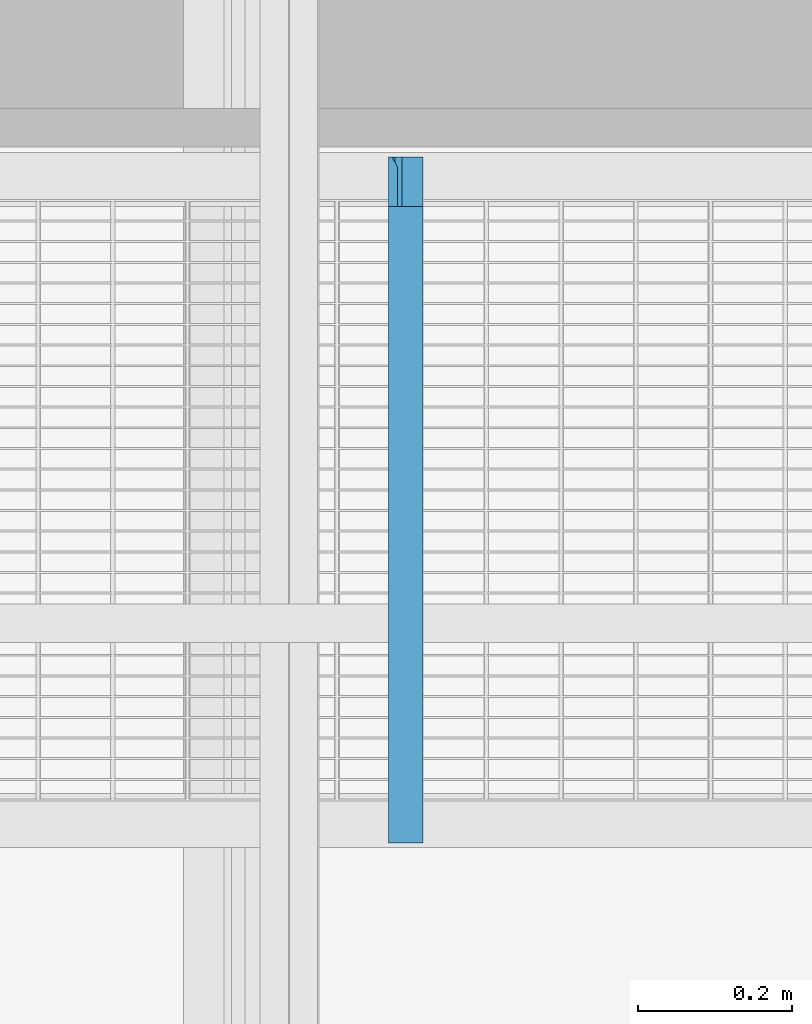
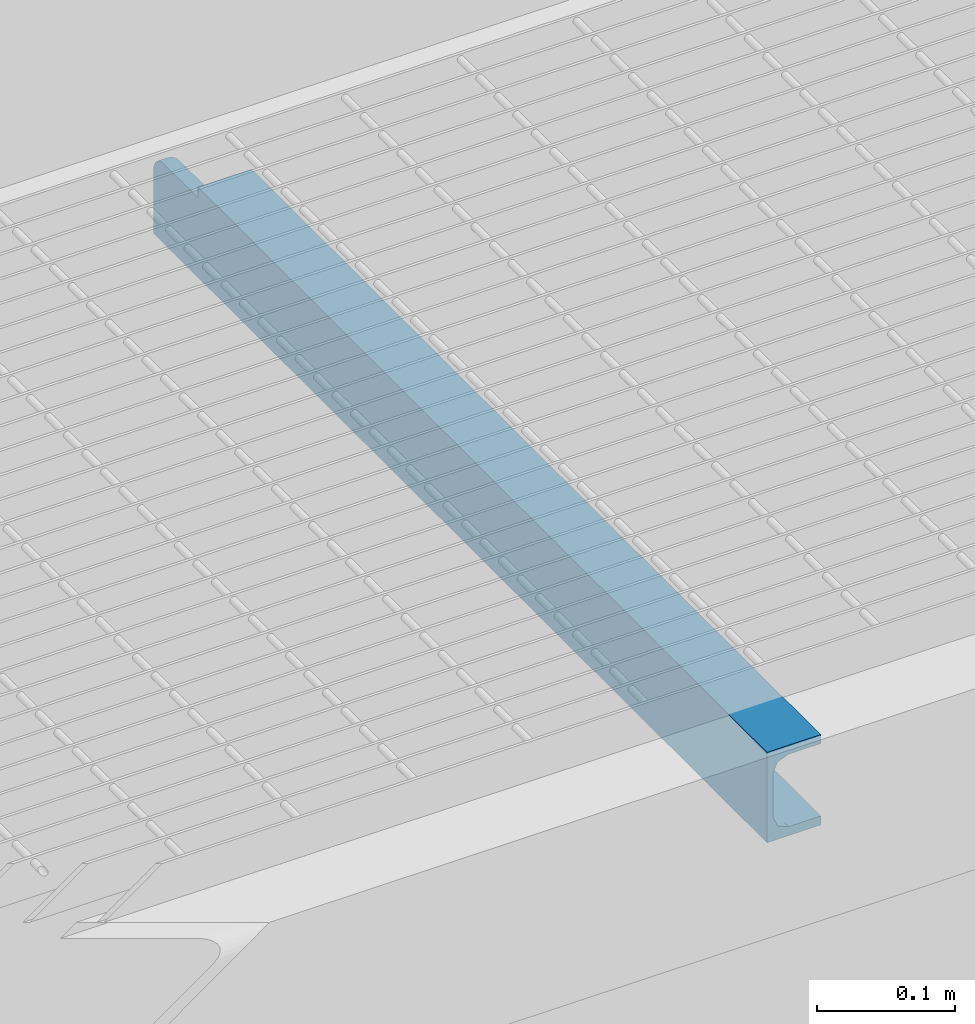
# One storey, part 48 of 75: 1 beam.
"""IFC2X3 building model written with IfcOpenShell, lengths in metres."""

from ifc_helpers import new_model, entity, si_unit, converted_unit, derived_unit, direction, frame, origin, place, context, subcontext, project, spatial, faceted_brep, material, type_object, element, save


model = new_model("IFC2X3")

# Units and contexts
model_context = context("Model", 3, precision=1e-05, world=origin(), true_north=direction((6.12303176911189e-17, 1.0)))
body_context = subcontext(model_context, "Body", "Model", "MODEL_VIEW")
ifc_project = project(units=[si_unit("LENGTHUNIT", "METRE"), si_unit("AREAUNIT", "SQUARE_METRE"), si_unit("VOLUMEUNIT", "CUBIC_METRE"), converted_unit("PLANEANGLEUNIT", "DEGREE", entity("IfcRatioMeasure", 0.0174532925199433), si_unit("PLANEANGLEUNIT", "RADIAN"), dimensions=[0, 0, 0, 0, 0, 0, 0]), si_unit("MASSUNIT", "GRAM", prefix="KILO"), derived_unit("MASSDENSITYUNIT", [(si_unit("MASSUNIT", "GRAM", prefix="KILO"), 1), (si_unit("LENGTHUNIT", "METRE"), -3)]), derived_unit("MOMENTOFINERTIAUNIT", [(si_unit("LENGTHUNIT", "METRE"), 4)]), si_unit("TIMEUNIT", "SECOND"), si_unit("FREQUENCYUNIT", "HERTZ"), si_unit("THERMODYNAMICTEMPERATUREUNIT", "DEGREE_CELSIUS"), derived_unit("THERMALTRANSMITTANCEUNIT", [(si_unit("MASSUNIT", "GRAM", prefix="KILO"), 1), (si_unit("THERMODYNAMICTEMPERATUREUNIT", "KELVIN"), -1), (si_unit("TIMEUNIT", "SECOND"), -3)]), derived_unit("VOLUMETRICFLOWRATEUNIT", [(si_unit("LENGTHUNIT", "METRE"), 3), (si_unit("TIMEUNIT", "SECOND"), -1)]), si_unit("ELECTRICCURRENTUNIT", "AMPERE"), si_unit("ELECTRICVOLTAGEUNIT", "VOLT"), si_unit("POWERUNIT", "WATT"), si_unit("FORCEUNIT", "NEWTON", prefix="KILO"), si_unit("ILLUMINANCEUNIT", "LUX"), si_unit("LUMINOUSFLUXUNIT", "LUMEN"), si_unit("LUMINOUSINTENSITYUNIT", "CANDELA"), derived_unit("USERDEFINED", [(si_unit("MASSUNIT", "GRAM", prefix="KILO"), -1), (si_unit("LENGTHUNIT", "METRE"), -2), (si_unit("TIMEUNIT", "SECOND"), 3), (si_unit("LUMINOUSFLUXUNIT", "LUMEN"), 1)]), derived_unit("LINEARVELOCITYUNIT", [(si_unit("LENGTHUNIT", "METRE"), 1), (si_unit("TIMEUNIT", "SECOND"), -1)]), si_unit("PRESSUREUNIT", "PASCAL"), derived_unit("USERDEFINED", [(si_unit("LENGTHUNIT", "METRE"), -2), (si_unit("MASSUNIT", "GRAM", prefix="KILO"), 1), (si_unit("TIMEUNIT", "SECOND"), -2)]), derived_unit("LINEARFORCEUNIT", [(si_unit("MASSUNIT", "GRAM", prefix="KILO"), 1), (si_unit("LENGTHUNIT", "METRE"), 1), (si_unit("TIMEUNIT", "SECOND"), -2), (si_unit("LENGTHUNIT", "METRE"), -1)]), derived_unit("PLANARFORCEUNIT", [(si_unit("MASSUNIT", "GRAM", prefix="KILO"), 1), (si_unit("LENGTHUNIT", "METRE"), 1), (si_unit("TIMEUNIT", "SECOND"), -2), (si_unit("LENGTHUNIT", "METRE"), -2)])], contexts=[model_context])

# Site, building, storey
site_placement = place(None, origin())
site = spatial("IfcSite", under=ifc_project, at=site_placement, Name="Superficie", CompositionType="ELEMENT")
building_placement = place(site_placement, origin())
building = spatial("IfcBuilding", under=site, at=building_placement, Name="Telegestiones", CompositionType="ELEMENT")
storey_placement = place(building_placement, origin())
storey = spatial("IfcBuildingStorey", under=building, at=storey_placement, Name="Nivel 0_NPT", CompositionType="ELEMENT", Elevation=0.0)

# Beam
ifc_material = material(Name="Metal - Acero - 345 MPa")
beam_type = type_object("IfcBeamType", Name="U-Canales de ala paralela:UAP80", PredefinedType="NOTDEFINED")
beam_placement = place(storey_placement, frame((8.52678977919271, 12.7914072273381, 17.78), z_axis=(0.0, 0.0, 1.0), x_axis=(0.0, -1.0, 0.0)))
element("IfcBeam", 1, at=beam_placement, inside=storey, type_object=beam_type, material=ifc_material, Name="U-Canales de ala paralela:UAP80", ObjectType="U-Canales de ala paralela:UAP80", context=body_context, shape_type="Brep", body=[
    faceted_brep([(0.0, 0.0450000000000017, 0.0), (0.0, 0.0450000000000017, 0.00799999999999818), (0.0, 0.0180000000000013, 0.00799999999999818), (0.0, 0.0140667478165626, 0.00962920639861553), (0.0, 0.0114371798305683, 0.0107184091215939), (0.0, 0.00880761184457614, 0.0118076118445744), (0.0, 0.00785570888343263, 0.014105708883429), (0.0, 0.00690380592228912, 0.0164038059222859), (0.0, 0.00595190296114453, 0.0187019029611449), (0.0, 0.00500000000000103, 0.0209999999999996), (0.0, 0.00500000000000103, 0.0589999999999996), (0.0, 0.00662920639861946, 0.0629332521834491), (0.0, 0.00771840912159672, 0.0655628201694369), (0.0, 0.00880761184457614, 0.0681923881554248), (0.0, 0.011105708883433, 0.0691442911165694), (0.0, 0.0134038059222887, 0.0700961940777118), (0.0, 0.0157019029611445, 0.0710480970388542), (0.0, 0.0180000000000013, 0.0719999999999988), (0.0, 0.0450000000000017, 0.0719999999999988), (0.0, 0.0450000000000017, 0.0799999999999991), (0.0, 0.0, 0.0799999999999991), (0.0, 0.0, 0.0), (-0.889000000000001, 0.0180000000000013, 0.00799999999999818), (-0.889000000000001, 0.0450000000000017, 0.00799999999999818), (-0.889000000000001, 0.0450000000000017, 0.0), (-0.889000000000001, 0.0, 0.0), (-0.889000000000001, 0.0, 0.0579413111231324), (-0.889000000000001, 0.00500000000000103, 0.0579413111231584), (-0.889000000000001, 0.00500000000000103, 0.0209999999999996), (-0.888999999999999, 0.00581460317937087, 0.0190333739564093), (-0.888999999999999, 0.00690380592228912, 0.0164038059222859), (-0.888999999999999, 0.00785570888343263, 0.0141057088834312), (-0.889000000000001, 0.00880761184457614, 0.0118076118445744), (-0.888999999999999, 0.011105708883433, 0.0108557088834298), (-0.888999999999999, 0.0134038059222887, 0.00990380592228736), (-0.888999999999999, 0.0160333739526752, 0.00881460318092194), (-0.824700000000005, 0.0, 0.0799999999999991), (-0.824700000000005, 0.0450000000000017, 0.0799999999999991), (-0.824700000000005, 0.0450000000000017, 0.0719999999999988), (-0.062947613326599, 0.0180000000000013, 0.0719999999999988), (-0.160559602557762, 0.0180000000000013, 0.0719999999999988), (-0.240839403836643, 0.0180000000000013, 0.0719999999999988), (-0.321119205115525, 0.0180000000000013, 0.0719999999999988), (-0.447014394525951, 0.0180000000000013, 0.0719999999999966), (-0.572909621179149, 0.0180000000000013, 0.0719999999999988), (-0.698804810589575, 0.0180000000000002, 0.0719999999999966), (-0.761752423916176, 0.0180000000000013, 0.0719999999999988), (-0.824700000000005, 0.0180000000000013, 0.0719999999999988), (-0.215514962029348, 0.011174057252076, 0.0700637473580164), (-0.330303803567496, 0.011807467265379, 0.0704303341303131), (-0.25452861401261, 0.0146877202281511, 0.0715709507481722), (-0.699943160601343, 0.00523485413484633, 0.0614598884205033), (-0.810563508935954, 0.00520855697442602, 0.0613192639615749), (-0.768024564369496, 0.00586898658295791, 0.0636731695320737), (-0.748090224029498, 0.00706707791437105, 0.0660335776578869), (-0.765256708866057, 0.00873473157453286, 0.0681189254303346), (-0.669156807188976, 0.00711297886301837, 0.0661044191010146), (-0.562144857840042, 0.0118082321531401, 0.0704307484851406), (-0.585927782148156, 0.0143384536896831, 0.0714736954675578), (-0.504609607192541, 0.0148068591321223, 0.0716017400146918), (-0.288903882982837, 0.00656282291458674, 0.0651798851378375), (-0.246792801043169, 0.00529946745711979, 0.0617742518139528), (-0.337054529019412, 0.00538486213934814, 0.0621397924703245), (-0.693636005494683, 0.00597327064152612, 0.0639353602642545), (-0.583477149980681, 0.00691464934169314, 0.0657908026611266), (-0.572639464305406, 0.00566390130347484, 0.0631013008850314), (-0.821714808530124, 0.0072000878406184, 0.0662361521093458), (-0.883373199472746, 0.00805140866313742, 0.0673681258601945), (-0.880694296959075, 0.00971902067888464, 0.0690212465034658), (-0.400777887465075, 0.0148068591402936, 0.0716017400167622), (-0.447014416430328, 0.0118093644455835, 0.0704313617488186), (-0.38872367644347, 0.00849580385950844, 0.0678696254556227), (-0.887564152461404, 0.00542889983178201, 0.0623117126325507), (-0.885697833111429, 0.00653775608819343, 0.0651332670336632), (-0.824700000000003, 0.0119378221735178, 0.0705000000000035), (-0.824700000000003, 0.0148775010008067, 0.0716194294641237), (-0.751859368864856, 0.0133736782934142, 0.0711489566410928), (-0.730278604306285, 0.0157137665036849, 0.0717973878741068), (-0.654792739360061, 0.0158751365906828, 0.0718251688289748), (-0.751922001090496, 0.0108748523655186, 0.0698734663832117), (-0.877647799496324, 0.0112305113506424, 0.0700983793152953), (-0.654843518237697, 0.00983894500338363, 0.0691191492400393), (-0.874200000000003, 0.0119378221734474, 0.0704999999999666), (-0.327184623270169, 0.0154006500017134, 0.0717374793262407), (-0.666010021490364, 0.0133736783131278, 0.0711489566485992), (-0.762890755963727, 0.00500000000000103, 0.0589999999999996), (-0.888785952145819, 0.00500000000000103, 0.0589999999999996), (-0.191502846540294, 0.00857794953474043, 0.0679568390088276), (-0.28840350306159, 0.00914124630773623, 0.0685143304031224), (-0.0734044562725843, 0.00605820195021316, 0.0641374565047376), (-0.125674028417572, 0.00699071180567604, 0.0659134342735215), (-0.136789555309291, 0.0140008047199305, 0.07136957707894), (-0.099192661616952, 0.0105255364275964, 0.0696363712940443), (-0.0807461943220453, 0.00843895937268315, 0.0678083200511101), (-0.636995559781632, 0.00500000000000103, 0.0589999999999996), (-0.427915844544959, 0.00590377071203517, 0.0637624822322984), (-0.422765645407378, 0.00519717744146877, 0.0612556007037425), (-0.494430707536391, 0.00536215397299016, 0.0620471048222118), (-0.441230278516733, 0.00717923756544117, 0.0662049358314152), (-0.367632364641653, 0.00666169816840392, 0.0653594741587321), (-0.506131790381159, 0.00634894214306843, 0.0647665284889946), (-0.522473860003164, 0.00816455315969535, 0.0675008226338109), (-0.598269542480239, 0.00850477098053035, 0.0678792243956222), (-0.54906765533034, 0.00980018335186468, 0.0690877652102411), (-0.469930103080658, 0.00963299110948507, 0.0689495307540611), (-0.288903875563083, 0.00500000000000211, 0.0589999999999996), (-0.0636199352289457, 0.0142262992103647, 0.0714402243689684), (-0.0742289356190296, 0.00525435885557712, 0.0615590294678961), (-0.125895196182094, 0.00500000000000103, 0.0589999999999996), (-0.159248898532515, 0.0055079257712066, 0.062598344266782), (-0.192602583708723, 0.00500000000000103, 0.0589999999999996), (-0.51110036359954, 0.00500000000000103, 0.0589999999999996), (-0.208170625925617, 0.00687495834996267, 0.0657255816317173), (-0.385205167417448, 0.00500000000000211, 0.0589999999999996), (-0.125895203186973, 0.00500000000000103, 0.0209999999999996), (-0.251790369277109, 0.00499999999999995, 0.0209999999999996), (-0.348145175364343, 0.00500000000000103, 0.0209999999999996), (-0.444499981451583, 0.00500000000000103, 0.0209999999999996), (-0.555624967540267, 0.00500000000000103, 0.0209999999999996), (-0.666749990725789, 0.00499999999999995, 0.0209999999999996), (-0.763104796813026, 0.00500000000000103, 0.0209999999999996), (-0.888902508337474, 0.00500000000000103, 0.0584725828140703), (-0.0778917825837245, 0.00972190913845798, 0.0109763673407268), (-0.434402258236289, 0.0055621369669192, 0.0172185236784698), (-0.371699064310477, 0.00522987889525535, 0.0185660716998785), (-0.637985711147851, 0.00535319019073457, 0.0179903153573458), (-0.631037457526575, 0.00637757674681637, 0.0151759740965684), (-0.714927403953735, 0.00574745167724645, 0.0166554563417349), (-0.447616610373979, 0.0123547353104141, 0.00928970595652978), (-0.318793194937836, 0.0113965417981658, 0.00980203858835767), (-0.337241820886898, 0.0147439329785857, 0.00841437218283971), (-0.522908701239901, 0.0144490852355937, 0.00849436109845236), (-0.511314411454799, 0.0180000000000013, 0.00799999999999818), (-0.600273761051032, 0.0154448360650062, 0.00825358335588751), (-0.402237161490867, 0.00939162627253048, 0.011258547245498), (-0.671410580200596, 0.0104857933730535, 0.0103916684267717), (-0.571624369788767, 0.0105107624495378, 0.0103740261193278), (-0.606787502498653, 0.0127204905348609, 0.00912032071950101), (-0.555625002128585, 0.00560622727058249, 0.0170764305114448), (-0.298942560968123, 0.00846054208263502, 0.0121683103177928), (-0.725360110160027, 0.0139509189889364, 0.00864666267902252), (-0.763104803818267, 0.0180000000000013, 0.00800000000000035), (-0.812024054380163, 0.0144028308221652, 0.00850758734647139), (-0.205498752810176, 0.00538630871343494, 0.0178544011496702), (-0.299967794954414, 0.00537533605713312, 0.017898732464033), (-0.348145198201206, 0.00647967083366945, 0.0149765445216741), (-0.148457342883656, 0.011086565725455, 0.00999071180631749), (-0.0742286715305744, 0.0123642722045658, 0.00928511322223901), (-0.151843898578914, 0.00630537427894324, 0.0153223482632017), (-0.0865002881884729, 0.00767465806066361, 0.0131014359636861), (-0.181672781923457, 0.00833343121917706, 0.0123076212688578), (-0.234464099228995, 0.0108404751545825, 0.0101491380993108), (-0.117147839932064, 0.00535692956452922, 0.0179746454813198), (-0.0766355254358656, 0.00607386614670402, 0.0158262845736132), (-0.249795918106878, 0.0134664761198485, 0.00881611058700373), (-0.074735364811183, 0.0152252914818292, 0.00829956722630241), (-0.159302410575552, 0.0144821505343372, 0.00848501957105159), (-0.125895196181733, 0.0180000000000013, 0.00800000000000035), (-0.192709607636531, 0.0180000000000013, 0.00799999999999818), (-0.2890644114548, 0.0180000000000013, 0.00799999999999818), (-0.385419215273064, 0.0180000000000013, 0.00800000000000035), (-0.273053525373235, 0.0156603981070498, 0.00821226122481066), (-0.42641705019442, 0.0152285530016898, 0.00829885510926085), (-0.511314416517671, 0.00904802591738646, 0.0115733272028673), (-0.542848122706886, 0.00701878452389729, 0.0140420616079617), (-0.60548723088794, 0.00857249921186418, 0.0120488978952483), (-0.784171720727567, 0.00998354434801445, 0.0107659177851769), (-0.699238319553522, 0.00807841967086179, 0.0125998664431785), (-0.637209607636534, 0.0180000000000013, 0.00799999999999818), (-0.801250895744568, 0.00747715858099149, 0.0133665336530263), (-0.805580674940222, 0.0055075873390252, 0.0174028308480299), (-0.445744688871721, 0.00719760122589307, 0.0137675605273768), (-0.249994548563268, 0.0063912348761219, 0.0151487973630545), (-0.367533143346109, 0.00783049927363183, 0.0129017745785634), (-0.696979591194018, 0.00670885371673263, 0.0145571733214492), (-0.8203278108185, 0.0119518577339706, 0.00949261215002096), (-0.874200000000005, 0.0, 0.0705000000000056), (-0.87768611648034, 0.0, 0.0700892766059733), (-0.880981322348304, 0.0, 0.0688795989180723), (-0.883905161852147, 0.0, 0.0669372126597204), (-0.886297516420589, 0.0, 0.0643684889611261), (-0.88802737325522, 0.0, 0.0613140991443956), (-0.824700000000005, 0.0, 0.0705000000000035)], [[[0, 1, 2, 3, 4, 5, 6, 7, 8, 9, 10, 11, 12, 13, 14, 15, 16, 17, 18, 19, 20, 21]], [[22, 23, 24, 25, 26, 27, 28, 29, 30, 31, 32, 33, 34, 35]], [[36, 20, 19, 37]], [[37, 19, 18, 38]], [[23, 1, 0, 24]], [[38, 18, 17, 39, 40, 41, 42, 43, 44, 45, 46, 47]], [[48, 49, 50]], [[51, 52, 53]], [[54, 55, 56]], [[57, 58, 59]], [[60, 61, 62]], [[63, 64, 65]], [[66, 54, 53]], [[67, 68, 55]], [[59, 69, 70]], [[71, 70, 49]], [[72, 73, 53]], [[73, 67, 66]], [[74, 75, 76]], [[77, 45, 78]], [[76, 79, 74]], [[80, 74, 68]], [[81, 56, 55]], [[82, 74, 80]], [[49, 83, 50]], [[76, 84, 79]], [[55, 68, 74]], [[52, 85, 86]], [[53, 52, 72]], [[45, 77, 46]], [[87, 88, 48]], [[89, 90, 12]], [[47, 46, 75]], [[48, 91, 92]], [[56, 64, 63]], [[93, 92, 13]], [[88, 71, 49]], [[94, 51, 65]], [[94, 85, 51]], [[51, 53, 63]], [[95, 96, 97]], [[98, 71, 99]], [[98, 100, 101]], [[84, 57, 81]], [[64, 56, 102]], [[103, 57, 104]], [[103, 102, 81]], [[59, 44, 43, 42, 69]], [[79, 55, 74]], [[59, 70, 57]], [[76, 75, 77]], [[58, 78, 44]], [[79, 81, 55]], [[81, 79, 84]], [[70, 69, 49]], [[57, 70, 104]], [[91, 48, 50]], [[101, 100, 64]], [[48, 88, 49]], [[95, 97, 100]], [[105, 62, 61]], [[106, 15, 92]], [[41, 40, 50]], [[83, 41, 50]], [[91, 39, 106]], [[40, 91, 50]], [[91, 40, 39]], [[10, 107, 11]], [[15, 14, 13, 92]], [[108, 109, 107]], [[48, 92, 87]], [[108, 110, 109]], [[111, 94, 65]], [[77, 78, 84]], [[46, 77, 75]], [[76, 77, 84]], [[58, 57, 84]], [[78, 45, 44]], [[107, 109, 89]], [[90, 109, 112]], [[96, 95, 62]], [[105, 113, 62]], [[110, 61, 109]], [[60, 62, 99]], [[71, 88, 99]], [[90, 112, 87]], [[60, 88, 112]], [[93, 90, 87]], [[105, 61, 110]], [[112, 109, 61]], [[87, 112, 88]], [[61, 60, 112]], [[108, 107, 10]], [[11, 107, 89]], [[12, 93, 13]], [[90, 89, 109]], [[12, 11, 89]], [[66, 67, 55]], [[53, 54, 63]], [[73, 66, 53]], [[54, 66, 55]], [[72, 52, 86]], [[85, 52, 51]], [[51, 63, 65]], [[56, 63, 54]], [[65, 64, 100]], [[101, 64, 102]], [[65, 100, 97]], [[98, 95, 100]], [[97, 111, 65]], [[113, 111, 96]], [[95, 98, 99]], [[104, 71, 98]], [[95, 99, 62]], [[88, 60, 99]], [[101, 102, 103]], [[81, 102, 56]], [[104, 101, 103]], [[57, 103, 81]], [[101, 104, 98]], [[104, 70, 71]], [[97, 96, 111]], [[113, 96, 62]], [[83, 69, 42]], [[69, 83, 49]], [[16, 15, 106]], [[41, 83, 42]], [[39, 17, 16]], [[16, 106, 39]], [[91, 106, 92]], [[92, 93, 87]], [[90, 93, 12]], [[59, 58, 44]], [[78, 58, 84]], [[86, 85, 94, 111, 113, 105, 110, 108, 10, 9, 114, 115, 116, 117, 118, 119, 120, 28, 27, 121]], [[4, 122, 5]], [[123, 117, 124]], [[125, 126, 127]], [[128, 129, 130]], [[131, 132, 133]], [[134, 129, 128]], [[135, 136, 137]], [[118, 138, 125]], [[129, 134, 139]], [[140, 141, 142]], [[115, 114, 143]], [[144, 145, 124]], [[146, 122, 147]], [[148, 149, 150]], [[129, 139, 151]], [[152, 153, 148]], [[154, 130, 129]], [[154, 129, 151]], [[155, 3, 2]], [[146, 154, 151]], [[3, 155, 147]], [[156, 157, 158]], [[159, 160, 130]], [[158, 161, 156]], [[156, 161, 154]], [[162, 131, 128]], [[128, 136, 163]], [[130, 162, 128]], [[160, 162, 130]], [[164, 163, 165]], [[137, 140, 135]], [[164, 138, 123]], [[119, 127, 120]], [[135, 166, 167]], [[133, 168, 140]], [[166, 32, 169]], [[120, 170, 29]], [[30, 170, 169]], [[29, 170, 30]], [[171, 163, 164]], [[164, 126, 138]], [[134, 163, 171]], [[130, 154, 161]], [[156, 154, 146]], [[151, 150, 146]], [[150, 139, 172]], [[150, 151, 139]], [[173, 134, 171]], [[5, 122, 149]], [[172, 148, 150]], [[139, 134, 173]], [[163, 134, 128]], [[145, 171, 123]], [[164, 123, 171]], [[116, 115, 144]], [[117, 123, 138]], [[172, 144, 143]], [[116, 144, 124]], [[145, 144, 172]], [[145, 172, 139]], [[152, 148, 143]], [[148, 172, 143]], [[153, 6, 149]], [[143, 144, 115]], [[8, 152, 114]], [[114, 152, 143]], [[153, 8, 7, 6]], [[126, 125, 138]], [[165, 126, 164]], [[126, 174, 127]], [[167, 126, 165]], [[167, 165, 135]], [[165, 163, 136]], [[166, 169, 167]], [[168, 141, 140]], [[135, 140, 166]], [[35, 142, 141]], [[175, 33, 166]], [[142, 34, 175]], [[174, 167, 169]], [[31, 30, 169, 32]], [[146, 150, 122]], [[118, 117, 138]], [[125, 127, 119]], [[148, 153, 149]], [[8, 114, 9]], [[29, 28, 120]], [[149, 122, 150]], [[4, 3, 147]], [[147, 155, 156]], [[4, 147, 122]], [[146, 147, 156]], [[155, 157, 156]], [[157, 155, 2]], [[131, 136, 128]], [[162, 160, 132]], [[137, 131, 133]], [[131, 162, 132]], [[165, 136, 135]], [[131, 137, 136]], [[137, 133, 140]], [[168, 133, 132]], [[34, 142, 35]], [[141, 22, 35]], [[166, 140, 175]], [[142, 175, 140]], [[32, 166, 33]], [[175, 34, 33]], [[170, 127, 169]], [[127, 170, 120]], [[161, 159, 130]], [[118, 125, 119]], [[159, 161, 158]], [[173, 145, 139]], [[145, 173, 171]], [[116, 124, 117]], [[123, 124, 145]], [[152, 8, 153]], [[127, 174, 169]], [[174, 126, 167]], [[6, 5, 149]], [[1, 23, 22, 141, 168, 132, 160, 159, 158, 157, 2]], [[24, 0, 21, 25]], [[176, 177, 178, 179, 180, 181, 26, 25, 21, 20, 36, 182]], [[121, 27, 26]], [[86, 26, 181]], [[72, 181, 180]], [[86, 121, 26]], [[73, 72, 180]], [[86, 181, 72]], [[180, 179, 73]], [[179, 178, 67]], [[177, 176, 80]], [[178, 177, 68]], [[67, 178, 68]], [[80, 68, 177]], [[82, 80, 176]], [[179, 67, 73]], [[74, 82, 176, 182]], [[74, 182, 36, 37, 38, 47, 75]]]),
])

save(model, "model.ifc")
